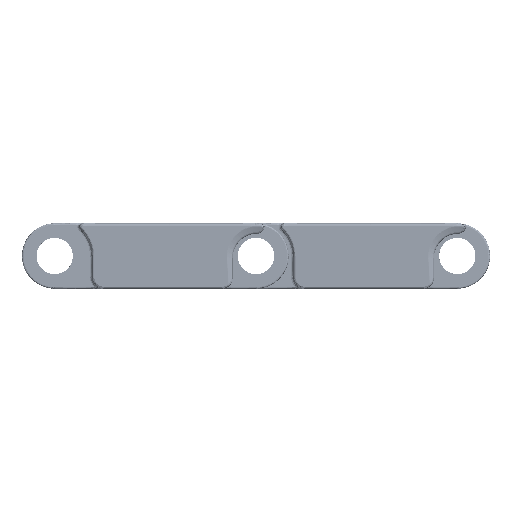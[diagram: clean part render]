
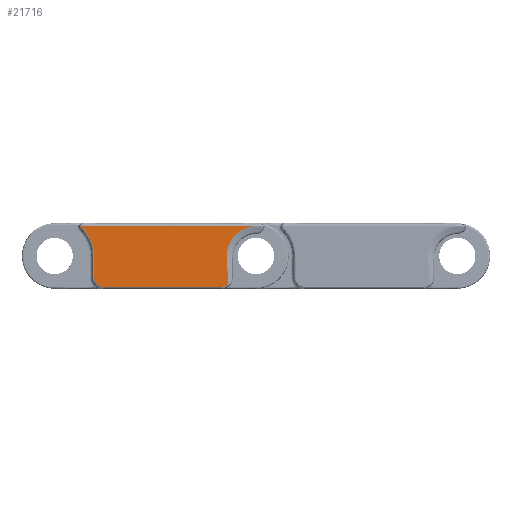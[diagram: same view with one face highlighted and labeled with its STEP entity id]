
A CAD part, left-side view. The second image highlights one B-rep face of the part: STEP entity #21716.
In plain terms, the highlighted planar face has unit normal (-1, 0, -0.018).
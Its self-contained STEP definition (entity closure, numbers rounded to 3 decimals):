
#7432=B_SPLINE_CURVE_WITH_KNOTS('',3,(#210528,#210529,#210530,#210531),
 .UNSPECIFIED.,.F.,.F.,(4,4),(0.,1.),.UNSPECIFIED.);
#7433=B_SPLINE_CURVE_WITH_KNOTS('',3,(#210575,#210576,#210577,#210578,#210579,
#210580,#210581,#210582,#210583,#210584),.UNSPECIFIED.,.F.,.F.,(4,3,3,4),
(0.,0.637,0.91,1.),.UNSPECIFIED.);
#7454=B_SPLINE_CURVE_WITH_KNOTS('',3,(#211458,#211459,#211460,#211461),
 .UNSPECIFIED.,.F.,.F.,(4,4),(0.,1.),.UNSPECIFIED.);
#7455=B_SPLINE_CURVE_WITH_KNOTS('',3,(#211463,#211464,#211465,#211466),
 .UNSPECIFIED.,.F.,.F.,(4,4),(0.,1.),.UNSPECIFIED.);
#7456=B_SPLINE_CURVE_WITH_KNOTS('',3,(#211471,#211472,#211473,#211474),
 .UNSPECIFIED.,.F.,.F.,(4,4),(0.,1.),.UNSPECIFIED.);
#7457=B_SPLINE_CURVE_WITH_KNOTS('',3,(#211476,#211477,#211478,#211479),
 .UNSPECIFIED.,.F.,.F.,(4,4),(0.,1.),.UNSPECIFIED.);
#16510=ELLIPSE('',#117946,0.695,0.695);
#16511=ELLIPSE('',#117948,4.1,4.093);
#16512=ELLIPSE('',#117956,5.221,5.22);
#16522=ELLIPSE('',#117979,1.28,1.28);
#16524=ELLIPSE('',#117981,1.13,1.13);
#16527=ELLIPSE('',#117990,0.18,0.18);
#21716=ADVANCED_FACE('',(#29698),#24989,.T.);
#24989=PLANE('',#117991);
#29698=FACE_OUTER_BOUND('',#36512,.T.);
#36512=EDGE_LOOP('',(#61208,#61209,#61210,#61211,#61212,#61213,#61214,#61215,
#61216,#61217,#61218,#61219,#61220,#61221,#61222,#61223));
#61208=ORIENTED_EDGE('',*,*,#93986,.F.);
#61209=ORIENTED_EDGE('',*,*,#93987,.T.);
#61210=ORIENTED_EDGE('',*,*,#93909,.T.);
#61211=ORIENTED_EDGE('',*,*,#93906,.T.);
#61212=ORIENTED_EDGE('',*,*,#93953,.T.);
#61213=ORIENTED_EDGE('',*,*,#93988,.T.);
#61214=ORIENTED_EDGE('',*,*,#93959,.T.);
#61215=ORIENTED_EDGE('',*,*,#93902,.T.);
#61216=ORIENTED_EDGE('',*,*,#93900,.T.);
#61217=ORIENTED_EDGE('',*,*,#93898,.T.);
#61218=ORIENTED_EDGE('',*,*,#93896,.T.);
#61219=ORIENTED_EDGE('',*,*,#93895,.T.);
#61220=ORIENTED_EDGE('',*,*,#93892,.T.);
#61221=ORIENTED_EDGE('',*,*,#93985,.F.);
#61222=ORIENTED_EDGE('',*,*,#93989,.F.);
#61223=ORIENTED_EDGE('',*,*,#93990,.F.);
#79372=VERTEX_POINT('',#210186);
#79394=VERTEX_POINT('',#210501);
#79396=VERTEX_POINT('',#210504);
#79397=VERTEX_POINT('',#210532);
#79398=VERTEX_POINT('',#210551);
#79399=VERTEX_POINT('',#210572);
#79400=VERTEX_POINT('',#210585);
#79403=VERTEX_POINT('',#210624);
#79404=VERTEX_POINT('',#210626);
#79406=VERTEX_POINT('',#210632);
#79435=VERTEX_POINT('',#210934);
#79438=VERTEX_POINT('',#211052);
#79452=VERTEX_POINT('',#211457);
#79453=VERTEX_POINT('',#211467);
#79454=VERTEX_POINT('',#211468);
#79455=VERTEX_POINT('',#211475);
#93892=EDGE_CURVE('',#79396,#79394,#103382,.T.);
#93895=EDGE_CURVE('',#79372,#79396,#16510,.T.);
#93896=EDGE_CURVE('',#79397,#79372,#7432,.T.);
#93898=EDGE_CURVE('',#79398,#79397,#16511,.T.);
#93900=EDGE_CURVE('',#79399,#79398,#103383,.T.);
#93902=EDGE_CURVE('',#79400,#79399,#7433,.T.);
#93906=EDGE_CURVE('',#79404,#79403,#103384,.T.);
#93909=EDGE_CURVE('',#79406,#79404,#16512,.T.);
#93953=EDGE_CURVE('',#79403,#79435,#16522,.T.);
#93959=EDGE_CURVE('',#79438,#79400,#16524,.T.);
#93985=EDGE_CURVE('',#79452,#79394,#7454,.T.);
#93986=EDGE_CURVE('',#79453,#79454,#7455,.T.);
#93987=EDGE_CURVE('',#79453,#79406,#16527,.T.);
#93988=EDGE_CURVE('',#79435,#79438,#103414,.T.);
#93989=EDGE_CURVE('',#79455,#79452,#7456,.T.);
#93990=EDGE_CURVE('',#79454,#79455,#7457,.T.);
#103382=LINE('',#210503,#109218);
#103383=LINE('',#210571,#109219);
#103384=LINE('',#210625,#109220);
#103414=LINE('',#211470,#109250);
#109218=VECTOR('',#138759,1.);
#109219=VECTOR('',#138772,1.);
#109220=VECTOR('',#138781,1.);
#109250=VECTOR('',#138885,1.);
#117946=AXIS2_PLACEMENT_3D('',#210511,#138764,#138765);
#117948=AXIS2_PLACEMENT_3D('',#210550,#138768,#138769);
#117956=AXIS2_PLACEMENT_3D('',#210631,#138787,#138788);
#117979=AXIS2_PLACEMENT_3D('',#210935,#138856,#138857);
#117981=AXIS2_PLACEMENT_3D('',#211051,#138860,#138861);
#117990=AXIS2_PLACEMENT_3D('',#211469,#138883,#138884);
#117991=AXIS2_PLACEMENT_3D('',#211480,#138886,#138887);
#138759=DIRECTION('',(-0.017,0.,1.));
#138764=DIRECTION('',(-1.,0.,-0.017));
#138765=DIRECTION('',(0.017,0.,-1.));
#138768=DIRECTION('',(1.,0.,0.017));
#138769=DIRECTION('',(-0.017,0.,1.));
#138772=DIRECTION('',(-0.017,0.058,0.998));
#138781=DIRECTION('',(0.017,0.,-1.));
#138787=DIRECTION('',(1.,0.,0.017));
#138788=DIRECTION('',(-0.017,0.,1.));
#138856=DIRECTION('',(-1.,0.,-0.017));
#138857=DIRECTION('',(0.017,0.,-1.));
#138860=DIRECTION('',(-1.,0.,-0.017));
#138861=DIRECTION('',(-0.017,0.,1.));
#138883=DIRECTION('',(-1.,0.,-0.017));
#138884=DIRECTION('',(-0.017,0.,1.));
#138885=DIRECTION('',(0.,-1.,0.));
#138886=DIRECTION('',(-1.,0.,-0.017));
#138887=DIRECTION('',(0.017,0.,-1.));
#210186=CARTESIAN_POINT('',(-266.917,12.705,-0.428));
#210501=CARTESIAN_POINT('',(-266.919,12.705,-0.3));
#210503=CARTESIAN_POINT('',(-266.918,12.705,-0.349));
#210504=CARTESIAN_POINT('',(-266.917,12.705,-0.405));
#210511=CARTESIAN_POINT('',(-266.917,13.4,-0.405));
#210528=CARTESIAN_POINT('',(-266.917,12.707,-0.428));
#210529=CARTESIAN_POINT('',(-266.917,12.706,-0.428));
#210530=CARTESIAN_POINT('',(-266.917,12.706,-0.428));
#210531=CARTESIAN_POINT('',(-266.917,12.705,-0.428));
#210532=CARTESIAN_POINT('',(-266.917,12.707,-0.428));
#210550=CARTESIAN_POINT('',(-266.846,13.4,-4.468));
#210551=CARTESIAN_POINT('',(-266.842,17.486,-4.705));
#210571=CARTESIAN_POINT('',(-266.842,17.486,-4.702));
#210572=CARTESIAN_POINT('',(-266.782,17.287,-8.149));
#210575=CARTESIAN_POINT('',(-266.78,17.378,-8.274));
#210576=CARTESIAN_POINT('',(-266.78,17.353,-8.253));
#210577=CARTESIAN_POINT('',(-266.78,17.329,-8.229));
#210578=CARTESIAN_POINT('',(-266.781,17.31,-8.201));
#210579=CARTESIAN_POINT('',(-266.781,17.302,-8.189));
#210580=CARTESIAN_POINT('',(-266.781,17.294,-8.177));
#210581=CARTESIAN_POINT('',(-266.782,17.29,-8.163));
#210582=CARTESIAN_POINT('',(-266.782,17.288,-8.159));
#210583=CARTESIAN_POINT('',(-266.782,17.287,-8.154));
#210584=CARTESIAN_POINT('',(-266.782,17.287,-8.149));
#210585=CARTESIAN_POINT('',(-266.78,17.378,-8.274));
#210624=CARTESIAN_POINT('',(-266.797,35.33,-7.255));
#210625=CARTESIAN_POINT('',(-266.919,35.33,-0.3));
#210626=CARTESIAN_POINT('',(-266.847,35.33,-4.405));
#210631=CARTESIAN_POINT('',(-266.847,40.55,-4.405));
#210632=CARTESIAN_POINT('',(-266.913,36.966,-0.609));
#210934=CARTESIAN_POINT('',(-266.775,34.05,-8.535));
#210935=CARTESIAN_POINT('',(-266.797,34.05,-7.255));
#211051=CARTESIAN_POINT('',(-266.795,18.1,-7.405));
#211052=CARTESIAN_POINT('',(-266.775,18.1,-8.535));
#211457=CARTESIAN_POINT('',(-266.919,13.461,-0.3));
#211458=CARTESIAN_POINT('',(-266.919,13.461,-0.3));
#211459=CARTESIAN_POINT('',(-266.919,13.209,-0.3));
#211460=CARTESIAN_POINT('',(-266.919,12.957,-0.3));
#211461=CARTESIAN_POINT('',(-266.919,12.705,-0.3));
#211463=CARTESIAN_POINT('',(-266.919,36.869,-0.3));
#211464=CARTESIAN_POINT('',(-266.919,36.849,-0.3));
#211465=CARTESIAN_POINT('',(-266.919,36.831,-0.3));
#211466=CARTESIAN_POINT('',(-266.919,36.814,-0.3));
#211467=CARTESIAN_POINT('',(-266.919,36.869,-0.3));
#211468=CARTESIAN_POINT('',(-266.919,36.814,-0.3));
#211469=CARTESIAN_POINT('',(-266.916,36.843,-0.479));
#211470=CARTESIAN_POINT('',(-266.775,18.263,-8.535));
#211471=CARTESIAN_POINT('',(-266.919,13.65,-0.3));
#211472=CARTESIAN_POINT('',(-266.919,13.586,-0.299));
#211473=CARTESIAN_POINT('',(-266.919,13.523,-0.299));
#211474=CARTESIAN_POINT('',(-266.919,13.461,-0.3));
#211475=CARTESIAN_POINT('',(-266.919,13.651,-0.3));
#211476=CARTESIAN_POINT('',(-266.919,36.814,-0.3));
#211477=CARTESIAN_POINT('',(-266.919,29.092,-0.3));
#211478=CARTESIAN_POINT('',(-266.919,21.371,-0.3));
#211479=CARTESIAN_POINT('',(-266.919,13.65,-0.3));
#211480=CARTESIAN_POINT('',(-266.919,24.831,-0.3));
